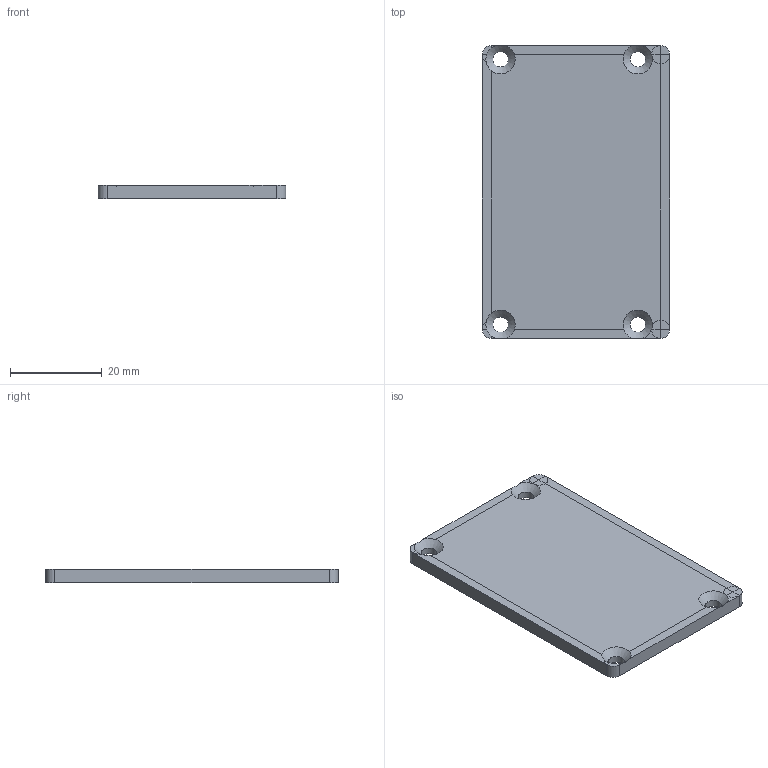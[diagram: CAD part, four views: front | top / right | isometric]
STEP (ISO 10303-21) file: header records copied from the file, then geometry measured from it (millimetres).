
FILE_DESCRIPTION(('Open CASCADE Model'),'2;1');
FILE_NAME('Open CASCADE Shape Model','2026-11-15T14:17:53',('Author'),( 'Open CASCADE'),'Open CASCADE STEP processor 8.0','Open CASCADE 8.0' ,'Unknown');
FILE_SCHEMA(('AUTOMOTIVE_DESIGN { 1 0 10303 214 1 1 1 1 }'));
Length unit declared in the file: millimetre
Products named in the file (1): Perfboard_Velcro_Tray
Bounding box: 41 x 64 x 3 mm (x, y, z)
Volume: 7690.6 mm3; surface area: 5888.9 mm2
Topology: 1 solids, 1 shells, 60 faces, 148 edges, 82 vertices
Faces by surface type: plane 48, cylinder 8, cone 4
Full cylindrical faces by diameter (mm): 3.4 x4
Entity records: 3729 total; most frequent: DIRECTION 638, CARTESIAN_POINT 625, ORIENTED_EDGE 296, PCURVE 296, DEFINITIONAL_REPRESENTATION 296, LINE 256, VECTOR 256, CIRCLE 174
